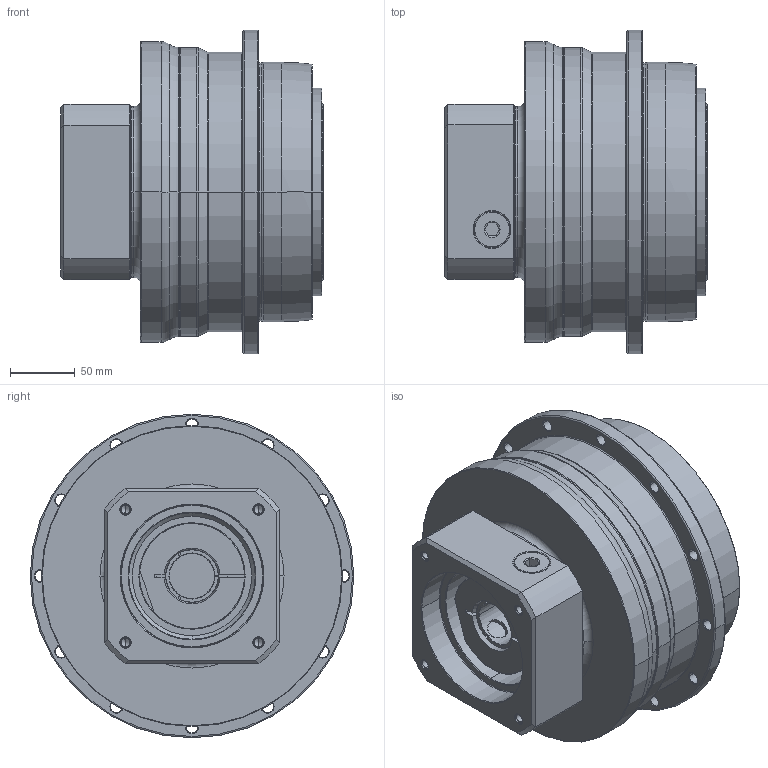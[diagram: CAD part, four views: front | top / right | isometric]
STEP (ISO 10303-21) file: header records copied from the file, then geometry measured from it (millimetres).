
FILE_DESCRIPTION((''),'2;1');
FILE_NAME('AH200_1ST_35-P0409800101_ASM','2016-09-26T',('d00435'),(''),'PRO/ENGINEER BY PARAMETRIC TECHNOLOGY CORPORATION, 2008410','PRO/ENGINEER BY PARAMETRIC TECHNOLOGY CORPORATION, 2008410','');
FILE_SCHEMA(('CONFIG_CONTROL_DESIGN'));
Length unit declared in the file: millimetre
Products named in the file (8): P0278600003; P0359600003; P1318600101; P0409800101; P0503800012; P0912601201; 21711422019; AH200_1ST_35-P0409800101_ASM
Assembly tree (7 placements, depth 2):
  AH200_1ST_35-P0409800101_ASM
    P0278600003
    P0359600003
    P1318600101
    P0409800101
    P0503800012
    P0912601201
    21711422019
Bounding box: 202.5 x 249.5 x 249.5 mm (x, y, z)
Volume: 5883757.1 mm3; surface area: 528048.2 mm2
Topology: 8 solids, 32 shells, 616 faces, 1465 edges, 891 vertices
Faces by surface type: cylinder 254, cone 170, plane 116, torus 62, bspline 14
Entity records: 22455 total; most frequent: CARTESIAN_POINT 7827, DIRECTION 3343, ORIENTED_EDGE 2742, AXIS2_PLACEMENT_3D 1424, EDGE_CURVE 1419, VERTEX_POINT 891, CIRCLE 797, EDGE_LOOP 726
